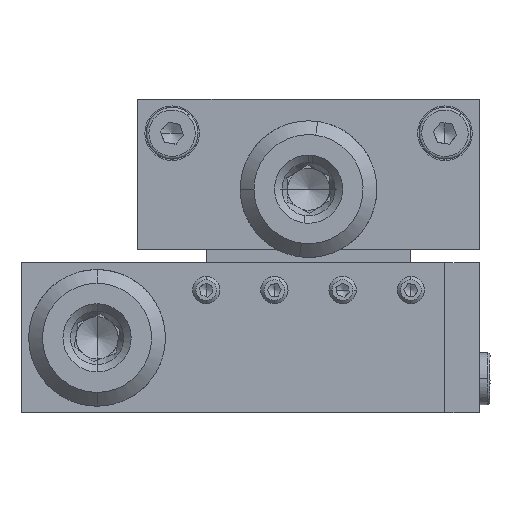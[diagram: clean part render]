
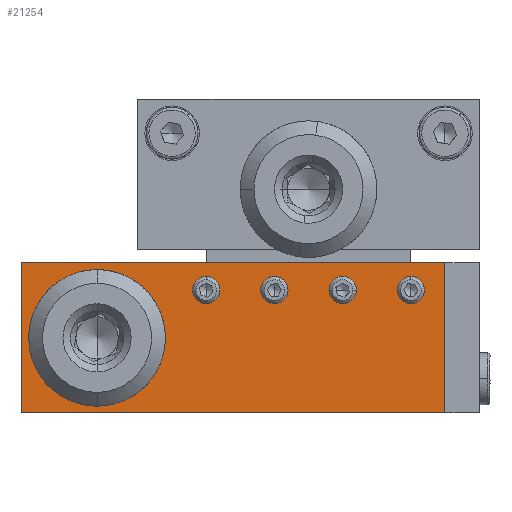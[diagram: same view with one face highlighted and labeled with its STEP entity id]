
A CAD part, left-side view. The second image highlights one B-rep face of the part: STEP entity #21254.
In plain terms, the highlighted planar face has unit normal (-1, 0, 0).
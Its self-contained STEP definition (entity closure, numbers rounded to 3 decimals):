
#12924 = DIRECTION ( 'NONE',  ( 0., 1., 0. ) ) ;
#12925 = DIRECTION ( 'NONE',  ( 1., 0., 0. ) ) ;
#12926 = CARTESIAN_POINT ( 'NONE',  ( -256.572, 230.956, -1060.668 ) ) ;
#12927 = AXIS2_PLACEMENT_3D ( 'NONE', #12926, #12925, #12924 ) ;
#12932 = CIRCLE ( 'NONE', #12927, 1. ) ;
#12935 = DIRECTION ( 'NONE',  ( 0., 0., -1. ) ) ;
#12936 = DIRECTION ( 'NONE',  ( 1., 0., 0. ) ) ;
#12937 = AXIS2_PLACEMENT_3D ( 'NONE', #12943, #12936, #12935 ) ;
#12938 = CIRCLE ( 'NONE', #12937, 4. ) ;
#12943 = CARTESIAN_POINT ( 'NONE',  ( -256.572, 238.956, -1064.168 ) ) ;
#12983 = DIRECTION ( 'NONE',  ( 0., -1., 0. ) ) ;
#12988 = DIRECTION ( 'NONE',  ( -1., 0., 0. ) ) ;
#13021 = DIRECTION ( 'NONE',  ( 0., 1., 0. ) ) ;
#13022 = DIRECTION ( 'NONE',  ( 1., 0., 0. ) ) ;
#13023 = CARTESIAN_POINT ( 'NONE',  ( -256.572, 225.956, -1060.668 ) ) ;
#13024 = AXIS2_PLACEMENT_3D ( 'NONE', #13023, #13022, #13021 ) ;
#13029 = CIRCLE ( 'NONE', #13024, 1. ) ;
#13032 = DIRECTION ( 'NONE',  ( 0., 1., 0. ) ) ;
#13033 = DIRECTION ( 'NONE',  ( 1., 0., 0. ) ) ;
#13034 = AXIS2_PLACEMENT_3D ( 'NONE', #13040, #13033, #13032 ) ;
#13035 = CIRCLE ( 'NONE', #13034, 1. ) ;
#13040 = CARTESIAN_POINT ( 'NONE',  ( -256.572, 215.956, -1060.668 ) ) ;
#13043 = DIRECTION ( 'NONE',  ( 0., 1., 0. ) ) ;
#13044 = DIRECTION ( 'NONE',  ( 1., 0., 0. ) ) ;
#13045 = CARTESIAN_POINT ( 'NONE',  ( -256.572, 220.956, -1060.668 ) ) ;
#13046 = AXIS2_PLACEMENT_3D ( 'NONE', #13045, #13044, #13043 ) ;
#13047 = CIRCLE ( 'NONE', #13046, 1. ) ;
#13048 = CARTESIAN_POINT ( 'NONE',  ( -256.572, 244.456, -1069.668 ) ) ;
#13049 = DIRECTION ( 'NONE',  ( 0., -1., 0. ) ) ;
#13050 = VECTOR ( 'NONE', #13049, 1000. ) ;
#13051 = CARTESIAN_POINT ( 'NONE',  ( -256.572, 213.456, -1069.668 ) ) ;
#13052 = LINE ( 'NONE', #13051, #13050 ) ;
#13114 = CARTESIAN_POINT ( 'NONE',  ( -256.572, 213.456, -1069.668 ) ) ;
#13510 = CARTESIAN_POINT ( 'NONE',  ( -256.572, 213.456, -1069.668 ) ) ;
#13511 = AXIS2_PLACEMENT_3D ( 'NONE', #13510, #12988, #12983 ) ;
#13512 = PLANE ( 'NONE',  #13511 ) ;
#13514 = FACE_BOUND ( 'NONE', #21224, .T. ) ;
#13515 = FACE_BOUND ( 'NONE', #21246, .T. ) ;
#13516 = FACE_BOUND ( 'NONE', #21243, .T. ) ;
#13517 = FACE_BOUND ( 'NONE', #21240, .T. ) ;
#13518 = FACE_BOUND ( 'NONE', #21237, .T. ) ;
#13519 = FACE_OUTER_BOUND ( 'NONE', #21255, .T. ) ;
#13524 = CARTESIAN_POINT ( 'NONE',  ( -256.572, 213.456, -1058.668 ) ) ;
#13525 = DIRECTION ( 'NONE',  ( 0., 0., 1. ) ) ;
#13526 = VECTOR ( 'NONE', #13525, 1000. ) ;
#13527 = CARTESIAN_POINT ( 'NONE',  ( -256.572, 213.456, -1069.668 ) ) ;
#13528 = LINE ( 'NONE', #13527, #13526 ) ;
#13529 = DIRECTION ( 'NONE',  ( 0., 0., 1. ) ) ;
#13530 = VECTOR ( 'NONE', #13529, 1000. ) ;
#13531 = CARTESIAN_POINT ( 'NONE',  ( -256.572, 244.456, -1069.668 ) ) ;
#13532 = LINE ( 'NONE', #13531, #13530 ) ;
#13533 = CARTESIAN_POINT ( 'NONE',  ( -256.572, 244.456, -1058.668 ) ) ;
#13574 = DIRECTION ( 'NONE',  ( 0., 1., 0. ) ) ;
#13575 = VECTOR ( 'NONE', #13574, 1000. ) ;
#13576 = CARTESIAN_POINT ( 'NONE',  ( -256.572, 233.456, -1058.668 ) ) ;
#13577 = LINE ( 'NONE', #13576, #13575 ) ;
#15661 = VERTEX_POINT ( 'NONE', #30333 ) ;
#15675 = EDGE_CURVE ( 'NONE', #15676, #15723, #30371, .T. ) ;
#15676 = VERTEX_POINT ( 'NONE', #30366 ) ;
#15709 = EDGE_CURVE ( 'NONE', #15661, #15710, #30434, .T. ) ;
#15710 = VERTEX_POINT ( 'NONE', #30429 ) ;
#15723 = VERTEX_POINT ( 'NONE', #30467 ) ;
#16532 = EDGE_CURVE ( 'NONE', #16533, #16534, #32120, .T. ) ;
#16533 = VERTEX_POINT ( 'NONE', #32115 ) ;
#16534 = VERTEX_POINT ( 'NONE', #32114 ) ;
#16549 = EDGE_CURVE ( 'NONE', #16550, #16551, #32153, .T. ) ;
#16550 = VERTEX_POINT ( 'NONE', #32207 ) ;
#16551 = VERTEX_POINT ( 'NONE', #32206 ) ;
#16563 = EDGE_CURVE ( 'NONE', #16564, #16565, #32183, .T. ) ;
#16564 = VERTEX_POINT ( 'NONE', #32179 ) ;
#16565 = VERTEX_POINT ( 'NONE', #32178 ) ;
#20821 = EDGE_CURVE ( 'NONE', #15710, #15661, #12938, .T. ) ;
#20828 = EDGE_CURVE ( 'NONE', #15723, #15676, #12932, .T. ) ;
#20876 = EDGE_CURVE ( 'NONE', #16551, #16550, #13047, .T. ) ;
#20883 = EDGE_CURVE ( 'NONE', #16565, #16564, #13035, .T. ) ;
#20891 = EDGE_CURVE ( 'NONE', #16534, #16533, #13029, .T. ) ;
#20922 = EDGE_CURVE ( 'NONE', #20923, #20924, #13052, .T. ) ;
#20923 = VERTEX_POINT ( 'NONE', #13048 ) ;
#20924 = VERTEX_POINT ( 'NONE', #13114 ) ;
#21222 = ORIENTED_EDGE ( 'NONE', *, *, #20828, .T. ) ;
#21223 = ORIENTED_EDGE ( 'NONE', *, *, #15675, .T. ) ;
#21224 = EDGE_LOOP ( 'NONE', ( #21225, #21226 ) ) ;
#21225 = ORIENTED_EDGE ( 'NONE', *, *, #20821, .T. ) ;
#21226 = ORIENTED_EDGE ( 'NONE', *, *, #15709, .T. ) ;
#21234 = VERTEX_POINT ( 'NONE', #13533 ) ;
#21235 = ORIENTED_EDGE ( 'NONE', *, *, #21236, .F. ) ;
#21236 = EDGE_CURVE ( 'NONE', #20923, #21234, #13532, .T. ) ;
#21237 = EDGE_LOOP ( 'NONE', ( #21238, #21239 ) ) ;
#21238 = ORIENTED_EDGE ( 'NONE', *, *, #20883, .T. ) ;
#21239 = ORIENTED_EDGE ( 'NONE', *, *, #16563, .T. ) ;
#21240 = EDGE_LOOP ( 'NONE', ( #21241, #21242 ) ) ;
#21241 = ORIENTED_EDGE ( 'NONE', *, *, #20876, .T. ) ;
#21242 = ORIENTED_EDGE ( 'NONE', *, *, #16549, .T. ) ;
#21243 = EDGE_LOOP ( 'NONE', ( #21244, #21245 ) ) ;
#21244 = ORIENTED_EDGE ( 'NONE', *, *, #20891, .T. ) ;
#21245 = ORIENTED_EDGE ( 'NONE', *, *, #16532, .T. ) ;
#21246 = EDGE_LOOP ( 'NONE', ( #21222, #21223 ) ) ;
#21248 = EDGE_CURVE ( 'NONE', #20924, #21249, #13528, .T. ) ;
#21249 = VERTEX_POINT ( 'NONE', #13524 ) ;
#21254 = ADVANCED_FACE ( 'NONE', ( #13519, #13518, #13517, #13516, #13515, #13514 ), #13512, .T. ) ;
#21255 = EDGE_LOOP ( 'NONE', ( #21256, #21257, #21258, #21235 ) ) ;
#21256 = ORIENTED_EDGE ( 'NONE', *, *, #20922, .T. ) ;
#21257 = ORIENTED_EDGE ( 'NONE', *, *, #21248, .T. ) ;
#21258 = ORIENTED_EDGE ( 'NONE', *, *, #21259, .T. ) ;
#21259 = EDGE_CURVE ( 'NONE', #21249, #21234, #13577, .T. ) ;
#30333 = CARTESIAN_POINT ( 'NONE',  ( -256.572, 238.956, -1060.168 ) ) ;
#30366 = CARTESIAN_POINT ( 'NONE',  ( -256.572, 229.956, -1060.668 ) ) ;
#30367 = DIRECTION ( 'NONE',  ( 0., 1., 0. ) ) ;
#30368 = DIRECTION ( 'NONE',  ( 1., 0., 0. ) ) ;
#30369 = CARTESIAN_POINT ( 'NONE',  ( -256.572, 230.956, -1060.668 ) ) ;
#30370 = AXIS2_PLACEMENT_3D ( 'NONE', #30369, #30368, #30367 ) ;
#30371 = CIRCLE ( 'NONE', #30370, 1. ) ;
#30429 = CARTESIAN_POINT ( 'NONE',  ( -256.572, 238.956, -1068.168 ) ) ;
#30430 = DIRECTION ( 'NONE',  ( 0., 0., -1. ) ) ;
#30431 = DIRECTION ( 'NONE',  ( 1., 0., 0. ) ) ;
#30432 = CARTESIAN_POINT ( 'NONE',  ( -256.572, 238.956, -1064.168 ) ) ;
#30433 = AXIS2_PLACEMENT_3D ( 'NONE', #30432, #30431, #30430 ) ;
#30434 = CIRCLE ( 'NONE', #30433, 4. ) ;
#30467 = CARTESIAN_POINT ( 'NONE',  ( -256.572, 231.956, -1060.668 ) ) ;
#32114 = CARTESIAN_POINT ( 'NONE',  ( -256.572, 226.956, -1060.668 ) ) ;
#32115 = CARTESIAN_POINT ( 'NONE',  ( -256.572, 224.956, -1060.668 ) ) ;
#32116 = DIRECTION ( 'NONE',  ( 0., 1., 0. ) ) ;
#32117 = DIRECTION ( 'NONE',  ( 1., 0., 0. ) ) ;
#32118 = CARTESIAN_POINT ( 'NONE',  ( -256.572, 225.956, -1060.668 ) ) ;
#32119 = AXIS2_PLACEMENT_3D ( 'NONE', #32118, #32117, #32116 ) ;
#32120 = CIRCLE ( 'NONE', #32119, 1. ) ;
#32147 = CARTESIAN_POINT ( 'NONE',  ( -256.572, 220.956, -1060.668 ) ) ;
#32148 = AXIS2_PLACEMENT_3D ( 'NONE', #32147, #32209, #32208 ) ;
#32153 = CIRCLE ( 'NONE', #32148, 1. ) ;
#32178 = CARTESIAN_POINT ( 'NONE',  ( -256.572, 216.956, -1060.668 ) ) ;
#32179 = CARTESIAN_POINT ( 'NONE',  ( -256.572, 214.956, -1060.668 ) ) ;
#32180 = DIRECTION ( 'NONE',  ( 0., 1., 0. ) ) ;
#32181 = DIRECTION ( 'NONE',  ( 1., 0., 0. ) ) ;
#32182 = AXIS2_PLACEMENT_3D ( 'NONE', #32188, #32181, #32180 ) ;
#32183 = CIRCLE ( 'NONE', #32182, 1. ) ;
#32188 = CARTESIAN_POINT ( 'NONE',  ( -256.572, 215.956, -1060.668 ) ) ;
#32206 = CARTESIAN_POINT ( 'NONE',  ( -256.572, 221.956, -1060.668 ) ) ;
#32207 = CARTESIAN_POINT ( 'NONE',  ( -256.572, 219.956, -1060.668 ) ) ;
#32208 = DIRECTION ( 'NONE',  ( 0., 1., 0. ) ) ;
#32209 = DIRECTION ( 'NONE',  ( 1., 0., 0. ) ) ;
